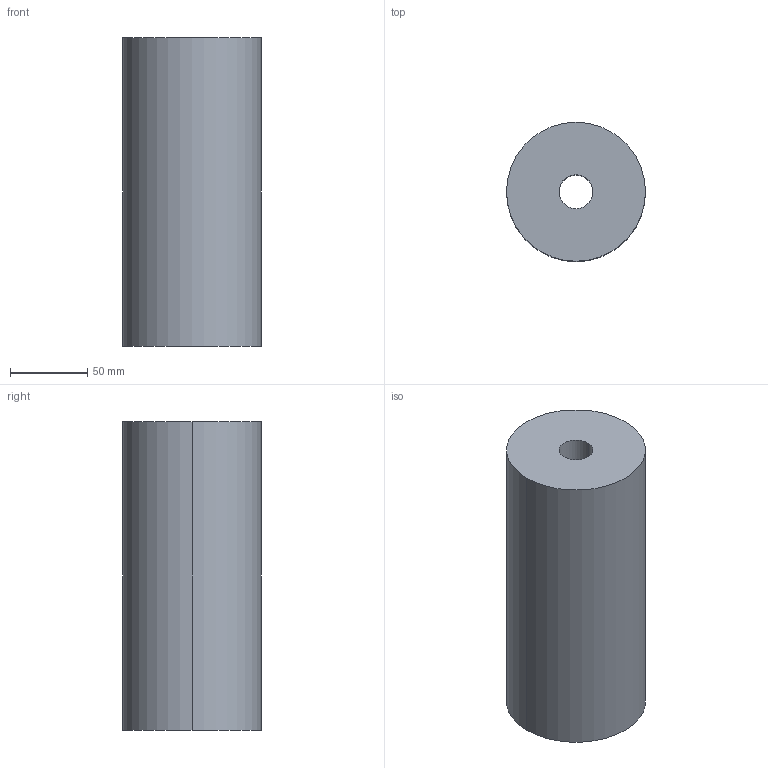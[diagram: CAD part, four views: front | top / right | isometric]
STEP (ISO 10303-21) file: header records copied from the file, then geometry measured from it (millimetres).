
FILE_DESCRIPTION(/* description */ (''),/* implementation_level */ '2;1');
FILE_NAME(/* name */ '3d_e90-200_03721_r00.stp',/* time_stamp */ '2011-01-10T14:15:49+09:00',/* author */ ('MISUMI'),/* organization */ (''),/* preprocessor_version */ 'ST-DEVELOPER v11',/* originating_system */ 'UGS - NX 5.0',/* authorisation */ '');
FILE_SCHEMA (('CONFIG_CONTROL_DESIGN'));
Length unit declared in the file: millimetre
Products named in the file (1): 3d_e90-200_03721_r00
Bounding box: 90 x 90 x 200 mm (x, y, z)
Volume: 1196318.5 mm3; surface area: 82334.9 mm2
Topology: 1 solids, 1 shells, 6 faces, 12 edges, 8 vertices
Faces by surface type: cylinder 4, plane 2
Entity records: 254 total; most frequent: DIRECTION 34, CARTESIAN_POINT 27, ORIENTED_EDGE 24, AXIS2_PLACEMENT_3D 15, EDGE_CURVE 12, EDGE_LOOP 8, VERTEX_POINT 8, CIRCLE 8
